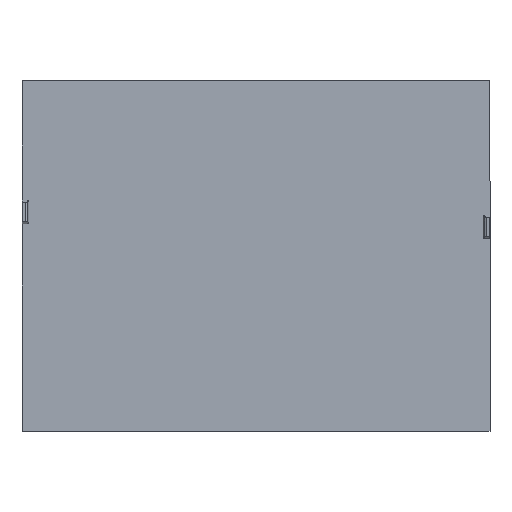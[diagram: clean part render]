
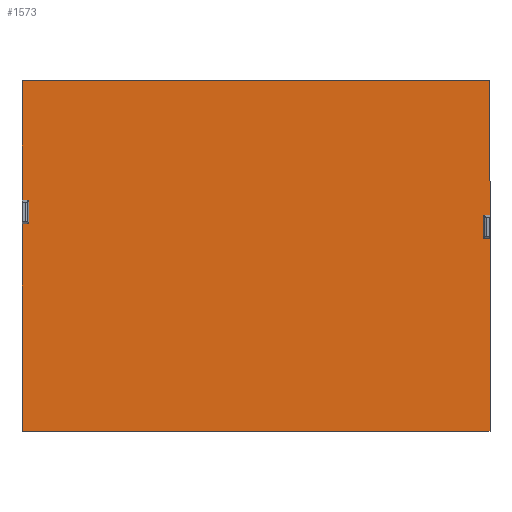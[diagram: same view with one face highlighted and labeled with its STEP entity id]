
A CAD part, front view. The second image highlights one B-rep face of the part: STEP entity #1573.
In plain terms, the highlighted planar face has unit normal (0, -1, 0).
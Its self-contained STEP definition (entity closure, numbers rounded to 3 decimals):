
#22 = ORIENTED_EDGE ( 'NONE', *, *, #2529, .F. ) ;
#54 = DIRECTION ( 'NONE',  ( 0., 0., 1. ) ) ;
#84 = CARTESIAN_POINT ( 'NONE',  ( 199.875, 0., 149.875 ) ) ;
#126 = ORIENTED_EDGE ( 'NONE', *, *, #2528, .T. ) ;
#138 = VECTOR ( 'NONE', #1700, 1000. ) ;
#175 = VERTEX_POINT ( 'NONE', #767 ) ;
#193 = DIRECTION ( 'NONE',  ( 0., 0., -1. ) ) ;
#194 = DIRECTION ( 'NONE',  ( 0., 0., 1. ) ) ;
#207 = VERTEX_POINT ( 'NONE', #1242 ) ;
#216 = VERTEX_POINT ( 'NONE', #2070 ) ;
#268 = CARTESIAN_POINT ( 'NONE',  ( 194., 0., 16.5 ) ) ;
#297 = LINE ( 'NONE', #1752, #1018 ) ;
#350 = CARTESIAN_POINT ( 'NONE',  ( -195.5, 0., 47.5 ) ) ;
#427 = FACE_OUTER_BOUND ( 'NONE', #677, .T. ) ;
#429 = ORIENTED_EDGE ( 'NONE', *, *, #2505, .T. ) ;
#439 = LINE ( 'NONE', #84, #1324 ) ;
#475 = CARTESIAN_POINT ( 'NONE',  ( 194., 0., 35. ) ) ;
#487 = DIRECTION ( 'NONE',  ( 0., 1., 0. ) ) ;
#502 = CARTESIAN_POINT ( 'NONE',  ( 195.5, 0., 35. ) ) ;
#549 = CIRCLE ( 'NONE', #2742, 1.5 ) ;
#556 = CARTESIAN_POINT ( 'NONE',  ( -199.875, 0., 149.875 ) ) ;
#591 = VECTOR ( 'NONE', #2978, 1000. ) ;
#628 = CARTESIAN_POINT ( 'NONE',  ( 199.875, 0., -149.875 ) ) ;
#669 = VERTEX_POINT ( 'NONE', #2662 ) ;
#677 = EDGE_LOOP ( 'NONE', ( #957, #1383, #1192, #1202, #1075, #429, #743, #2771, #1062, #1142, #126, #22, #3350, #2857, #2182, #2928 ) ) ;
#716 = VECTOR ( 'NONE', #1476, 1000. ) ;
#743 = ORIENTED_EDGE ( 'NONE', *, *, #2510, .T. ) ;
#766 = CARTESIAN_POINT ( 'NONE',  ( 199.875, 0., 15. ) ) ;
#767 = CARTESIAN_POINT ( 'NONE',  ( 199.875, 0., 149.875 ) ) ;
#844 = VERTEX_POINT ( 'NONE', #2866 ) ;
#870 = LINE ( 'NONE', #953, #3249 ) ;
#953 = CARTESIAN_POINT ( 'NONE',  ( 199.875, 0., -149.875 ) ) ;
#957 = ORIENTED_EDGE ( 'NONE', *, *, #2471, .T. ) ;
#994 = CARTESIAN_POINT ( 'NONE',  ( -199.875, 0., 47.5 ) ) ;
#1015 = VERTEX_POINT ( 'NONE', #3219 ) ;
#1018 = VECTOR ( 'NONE', #1427, 1000. ) ;
#1062 = ORIENTED_EDGE ( 'NONE', *, *, #2516, .T. ) ;
#1075 = ORIENTED_EDGE ( 'NONE', *, *, #2499, .T. ) ;
#1142 = ORIENTED_EDGE ( 'NONE', *, *, #2523, .F. ) ;
#1143 = CIRCLE ( 'NONE', #1233, 1.5 ) ;
#1181 = LINE ( 'NONE', #628, #3422 ) ;
#1192 = ORIENTED_EDGE ( 'NONE', *, *, #2483, .T. ) ;
#1199 = DIRECTION ( 'NONE',  ( 0., 0., 1. ) ) ;
#1202 = ORIENTED_EDGE ( 'NONE', *, *, #2484, .F. ) ;
#1233 = AXIS2_PLACEMENT_3D ( 'NONE', #1660, #1667, #1681 ) ;
#1242 = CARTESIAN_POINT ( 'NONE',  ( 199.875, 0., -149.875 ) ) ;
#1244 = PLANE ( 'NONE',  #3444 ) ;
#1268 = CARTESIAN_POINT ( 'NONE',  ( 0., 0., 0. ) ) ;
#1291 = VECTOR ( 'NONE', #1593, 1000. ) ;
#1324 = VECTOR ( 'NONE', #3465, 1000. ) ;
#1348 = CARTESIAN_POINT ( 'NONE',  ( 195.5, 0., 16.5 ) ) ;
#1378 = CARTESIAN_POINT ( 'NONE',  ( -194., 0., 29. ) ) ;
#1383 = ORIENTED_EDGE ( 'NONE', *, *, #2477, .F. ) ;
#1395 = VERTEX_POINT ( 'NONE', #2434 ) ;
#1396 = LINE ( 'NONE', #1402, #716 ) ;
#1402 = CARTESIAN_POINT ( 'NONE',  ( -199.875, 0., -149.875 ) ) ;
#1406 = CARTESIAN_POINT ( 'NONE',  ( -194., 0., 47.5 ) ) ;
#1427 = DIRECTION ( 'NONE',  ( 1., 0., 0. ) ) ;
#1433 = LINE ( 'NONE', #2422, #2390 ) ;
#1476 = DIRECTION ( 'NONE',  ( 0., 0., -1. ) ) ;
#1498 = DIRECTION ( 'NONE',  ( 0., 0., -1. ) ) ;
#1573 = ADVANCED_FACE ( 'NONE', ( #427 ), #1244, .F. ) ;
#1593 = DIRECTION ( 'NONE',  ( -1., 0., 0. ) ) ;
#1608 = LINE ( 'NONE', #475, #1823 ) ;
#1631 = CARTESIAN_POINT ( 'NONE',  ( -194., 0., 27.5 ) ) ;
#1660 = CARTESIAN_POINT ( 'NONE',  ( -195.5, 0., 46. ) ) ;
#1667 = DIRECTION ( 'NONE',  ( 0., 1., 0. ) ) ;
#1681 = DIRECTION ( 'NONE',  ( 0., 0., 1. ) ) ;
#1692 = DIRECTION ( 'NONE',  ( 0., 1., 0. ) ) ;
#1700 = DIRECTION ( 'NONE',  ( -1., 0., 0. ) ) ;
#1742 = CARTESIAN_POINT ( 'NONE',  ( -194., 0., 27.5 ) ) ;
#1752 = CARTESIAN_POINT ( 'NONE',  ( 194., 0., 15. ) ) ;
#1771 = LINE ( 'NONE', #1406, #1291 ) ;
#1776 = CARTESIAN_POINT ( 'NONE',  ( -199.875, 0., -149.875 ) ) ;
#1792 = CARTESIAN_POINT ( 'NONE',  ( -195.5, 0., 29. ) ) ;
#1823 = VECTOR ( 'NONE', #1498, 1000. ) ;
#1984 = LINE ( 'NONE', #1742, #138 ) ;
#2005 = DIRECTION ( 'NONE',  ( 0., 0., 1. ) ) ;
#2043 = CARTESIAN_POINT ( 'NONE',  ( -199.875, 0., 27.5 ) ) ;
#2070 = CARTESIAN_POINT ( 'NONE',  ( 194., 0., 33.5 ) ) ;
#2163 = VERTEX_POINT ( 'NONE', #3276 ) ;
#2182 = ORIENTED_EDGE ( 'NONE', *, *, #2554, .T. ) ;
#2192 = LINE ( 'NONE', #1631, #3549 ) ;
#2390 = VECTOR ( 'NONE', #2788, 1000. ) ;
#2422 = CARTESIAN_POINT ( 'NONE',  ( 199.875, 0., -149.875 ) ) ;
#2434 = CARTESIAN_POINT ( 'NONE',  ( 199.875, 0., 35. ) ) ;
#2471 = EDGE_CURVE ( 'NONE', #2910, #3362, #1396, .T. ) ;
#2477 = EDGE_CURVE ( 'NONE', #2956, #3362, #1771, .T. ) ;
#2483 = EDGE_CURVE ( 'NONE', #2956, #844, #1143, .T. ) ;
#2484 = EDGE_CURVE ( 'NONE', #2714, #844, #2192, .T. ) ;
#2499 = EDGE_CURVE ( 'NONE', #2714, #1015, #2884, .T. ) ;
#2505 = EDGE_CURVE ( 'NONE', #1015, #3167, #1984, .T. ) ;
#2510 = EDGE_CURVE ( 'NONE', #3167, #669, #2704, .T. ) ;
#2512 = EDGE_CURVE ( 'NONE', #669, #207, #1433, .T. ) ;
#2516 = EDGE_CURVE ( 'NONE', #207, #3561, #870, .T. ) ;
#2523 = EDGE_CURVE ( 'NONE', #2163, #3561, #297, .T. ) ;
#2528 = EDGE_CURVE ( 'NONE', #2163, #3401, #549, .T. ) ;
#2529 = EDGE_CURVE ( 'NONE', #216, #3401, #1608, .T. ) ;
#2533 = AXIS2_PLACEMENT_3D ( 'NONE', #1792, #3186, #2962 ) ;
#2537 = EDGE_CURVE ( 'NONE', #216, #3408, #2561, .T. ) ;
#2548 = EDGE_CURVE ( 'NONE', #3408, #1395, #2746, .T. ) ;
#2554 = EDGE_CURVE ( 'NONE', #1395, #175, #1181, .T. ) ;
#2561 = CIRCLE ( 'NONE', #3027, 1.5 ) ;
#2563 = EDGE_CURVE ( 'NONE', #175, #2910, #439, .T. ) ;
#2662 = CARTESIAN_POINT ( 'NONE',  ( -199.875, 0., -149.875 ) ) ;
#2704 = LINE ( 'NONE', #1776, #3069 ) ;
#2714 = VERTEX_POINT ( 'NONE', #1378 ) ;
#2742 = AXIS2_PLACEMENT_3D ( 'NONE', #1348, #1692, #1199 ) ;
#2746 = LINE ( 'NONE', #3277, #591 ) ;
#2771 = ORIENTED_EDGE ( 'NONE', *, *, #2512, .T. ) ;
#2788 = DIRECTION ( 'NONE',  ( 1., 0., 0. ) ) ;
#2857 = ORIENTED_EDGE ( 'NONE', *, *, #2548, .T. ) ;
#2866 = CARTESIAN_POINT ( 'NONE',  ( -194., 0., 46. ) ) ;
#2884 = CIRCLE ( 'NONE', #2533, 1.5 ) ;
#2910 = VERTEX_POINT ( 'NONE', #556 ) ;
#2922 = DIRECTION ( 'NONE',  ( 0., 0., 1. ) ) ;
#2928 = ORIENTED_EDGE ( 'NONE', *, *, #2563, .T. ) ;
#2956 = VERTEX_POINT ( 'NONE', #350 ) ;
#2962 = DIRECTION ( 'NONE',  ( 0., 0., 1. ) ) ;
#2978 = DIRECTION ( 'NONE',  ( 1., 0., 0. ) ) ;
#3027 = AXIS2_PLACEMENT_3D ( 'NONE', #3288, #3303, #3425 ) ;
#3069 = VECTOR ( 'NONE', #193, 1000. ) ;
#3167 = VERTEX_POINT ( 'NONE', #2043 ) ;
#3186 = DIRECTION ( 'NONE',  ( 0., 1., 0. ) ) ;
#3219 = CARTESIAN_POINT ( 'NONE',  ( -195.5, 0., 27.5 ) ) ;
#3249 = VECTOR ( 'NONE', #54, 1000. ) ;
#3276 = CARTESIAN_POINT ( 'NONE',  ( 195.5, 0., 15. ) ) ;
#3277 = CARTESIAN_POINT ( 'NONE',  ( 194., 0., 35. ) ) ;
#3288 = CARTESIAN_POINT ( 'NONE',  ( 195.5, 0., 33.5 ) ) ;
#3303 = DIRECTION ( 'NONE',  ( 0., 1., 0. ) ) ;
#3350 = ORIENTED_EDGE ( 'NONE', *, *, #2537, .T. ) ;
#3362 = VERTEX_POINT ( 'NONE', #994 ) ;
#3401 = VERTEX_POINT ( 'NONE', #268 ) ;
#3408 = VERTEX_POINT ( 'NONE', #502 ) ;
#3422 = VECTOR ( 'NONE', #194, 1000. ) ;
#3425 = DIRECTION ( 'NONE',  ( 0., 0., 1. ) ) ;
#3444 = AXIS2_PLACEMENT_3D ( 'NONE', #1268, #487, #2922 ) ;
#3465 = DIRECTION ( 'NONE',  ( -1., 0., 0. ) ) ;
#3549 = VECTOR ( 'NONE', #2005, 1000. ) ;
#3561 = VERTEX_POINT ( 'NONE', #766 ) ;
